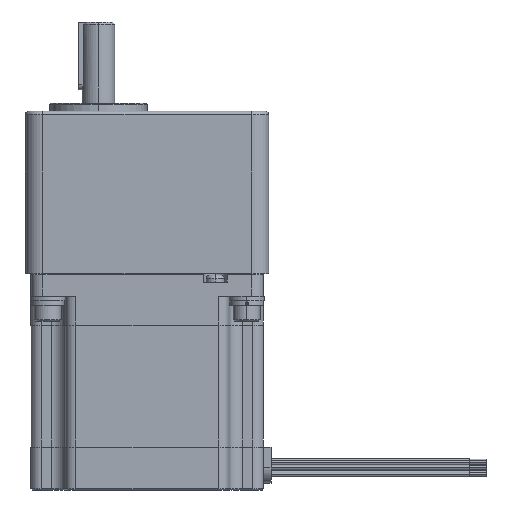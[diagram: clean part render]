
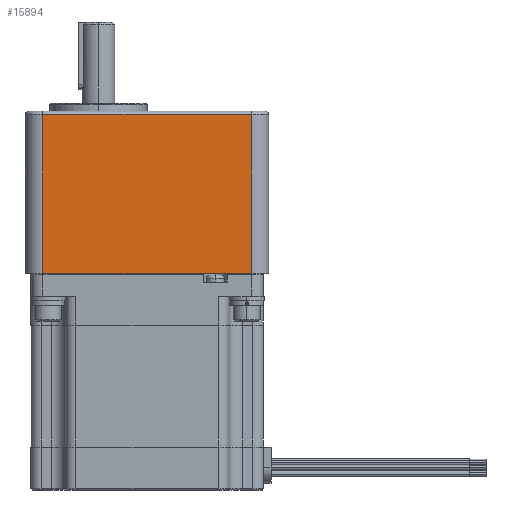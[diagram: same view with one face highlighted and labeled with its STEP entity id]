
A CAD part, left-side view. The second image highlights one B-rep face of the part: STEP entity #15894.
In plain terms, the highlighted planar face has unit normal (-1, 0, 0).
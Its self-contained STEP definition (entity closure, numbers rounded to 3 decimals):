
#1956 = CARTESIAN_POINT ( 'NONE',  ( -44.958, -38.608, 0. ) ) ;
#1957 = DIRECTION ( 'NONE',  ( 0., -1., 0. ) ) ;
#1959 = VECTOR ( 'NONE', #1957, 1000. ) ;
#1961 = CARTESIAN_POINT ( 'NONE',  ( -44.958, -38.608, 0. ) ) ;
#1969 = LINE ( 'NONE', #1961, #1959 ) ;
#2035 = CARTESIAN_POINT ( 'NONE',  ( -44.958, 38.608, 0. ) ) ;
#14752 = DIRECTION ( 'NONE',  ( 0., 0., -1. ) ) ;
#14753 = VECTOR ( 'NONE', #14752, 1000. ) ;
#14754 = CARTESIAN_POINT ( 'NONE',  ( -44.958, -38.608, 60. ) ) ;
#14791 = CARTESIAN_POINT ( 'NONE',  ( -44.958, -38.608, 58.73 ) ) ;
#14793 = FACE_OUTER_BOUND ( 'NONE', #15961, .T. ) ;
#14794 = DIRECTION ( 'NONE',  ( 0., 1., 0. ) ) ;
#14795 = VECTOR ( 'NONE', #14794, 1000. ) ;
#14796 = CARTESIAN_POINT ( 'NONE',  ( -44.958, -38.608, 58.73 ) ) ;
#14797 = LINE ( 'NONE', #14796, #14795 ) ;
#14802 = PLANE ( 'NONE',  #14808 ) ;
#14808 = AXIS2_PLACEMENT_3D ( 'NONE', #14832, #14831, #14830 ) ;
#14809 = LINE ( 'NONE', #14754, #14753 ) ;
#14830 = DIRECTION ( 'NONE',  ( 0., 0., -1. ) ) ;
#14831 = DIRECTION ( 'NONE',  ( 1., 0., 0. ) ) ;
#14832 = CARTESIAN_POINT ( 'NONE',  ( -44.958, -38.608, 60. ) ) ;
#14858 = CARTESIAN_POINT ( 'NONE',  ( -44.958, 38.608, 58.73 ) ) ;
#14860 = DIRECTION ( 'NONE',  ( 0., 0., -1. ) ) ;
#14861 = VECTOR ( 'NONE', #14860, 1000. ) ;
#14862 = CARTESIAN_POINT ( 'NONE',  ( -44.958, 38.608, 60. ) ) ;
#14878 = LINE ( 'NONE', #14862, #14861 ) ;
#15771 = EDGE_CURVE ( 'NONE', #15797, #15777, #1969, .T. ) ;
#15777 = VERTEX_POINT ( 'NONE', #1956 ) ;
#15797 = VERTEX_POINT ( 'NONE', #2035 ) ;
#15888 = EDGE_CURVE ( 'NONE', #15897, #15777, #14809, .T. ) ;
#15891 = EDGE_CURVE ( 'NONE', #15897, #15908, #14797, .T. ) ;
#15894 = ADVANCED_FACE ( 'NONE', ( #14793 ), #14802, .F. ) ;
#15895 = ORIENTED_EDGE ( 'NONE', *, *, #15906, .T. ) ;
#15897 = VERTEX_POINT ( 'NONE', #14791 ) ;
#15905 = ORIENTED_EDGE ( 'NONE', *, *, #15888, .F. ) ;
#15906 = EDGE_CURVE ( 'NONE', #15908, #15797, #14878, .T. ) ;
#15908 = VERTEX_POINT ( 'NONE', #14858 ) ;
#15951 = ORIENTED_EDGE ( 'NONE', *, *, #15891, .T. ) ;
#15955 = ORIENTED_EDGE ( 'NONE', *, *, #15771, .T. ) ;
#15961 = EDGE_LOOP ( 'NONE', ( #15905, #15951, #15895, #15955 ) ) ;
